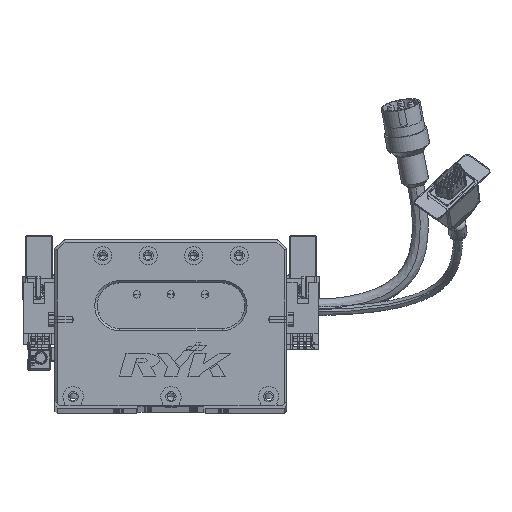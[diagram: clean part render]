
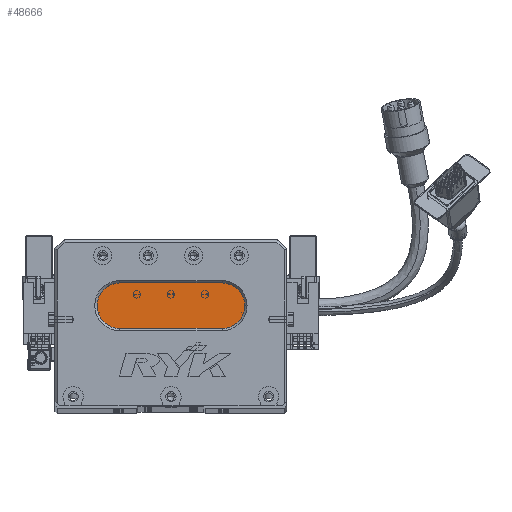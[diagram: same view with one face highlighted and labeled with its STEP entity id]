
A CAD part, top view. The second image highlights one B-rep face of the part: STEP entity #48666.
In plain terms, the highlighted planar face has unit normal (0, 0, 1) as drawn and (0, 0, -1) by its records, which use the part's own axes.
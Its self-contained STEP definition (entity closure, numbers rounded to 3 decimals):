
#123 = VERTEX_POINT ( 'NONE', #62744 ) ;
#1607 = ORIENTED_EDGE ( 'NONE', *, *, #1660, .T. ) ;
#1660 = EDGE_CURVE ( 'NONE', #72665, #33473, #56022, .T. ) ;
#3693 = VECTOR ( 'NONE', #16670, 1000. ) ;
#4206 = DIRECTION ( 'NONE',  ( -1., 0., 0. ) ) ;
#6441 = AXIS2_PLACEMENT_3D ( 'NONE', #66910, #44049, #10062 ) ;
#7343 = CIRCLE ( 'NONE', #59135, 10. ) ;
#8762 = CARTESIAN_POINT ( 'NONE',  ( 28.5, 34., 13. ) ) ;
#9513 = ORIENTED_EDGE ( 'NONE', *, *, #45822, .T. ) ;
#9635 = DIRECTION ( 'NONE',  ( 0., 0., -1. ) ) ;
#9801 = EDGE_CURVE ( 'NONE', #33473, #123, #44072, .T. ) ;
#10062 = DIRECTION ( 'NONE',  ( -1., 0., 0. ) ) ;
#13968 = ORIENTED_EDGE ( 'NONE', *, *, #73254, .T. ) ;
#16670 = DIRECTION ( 'NONE',  ( 1., 0., 0. ) ) ;
#16781 = EDGE_LOOP ( 'NONE', ( #9513, #13968, #1607, #62998, #61751 ) ) ;
#18524 = DIRECTION ( 'NONE',  ( -1., 0., 0. ) ) ;
#19228 = EDGE_CURVE ( 'NONE', #123, #59202, #58679, .T. ) ;
#26266 = DIRECTION ( 'NONE',  ( -1., 0., 0. ) ) ;
#27056 = CARTESIAN_POINT ( 'NONE',  ( 18.5, 44., 13. ) ) ;
#29620 = CARTESIAN_POINT ( 'NONE',  ( 28.5, 44., 13. ) ) ;
#30456 = LINE ( 'NONE', #60529, #54438 ) ;
#32101 = CARTESIAN_POINT ( 'NONE',  ( 73.5, 54., 13. ) ) ;
#33473 = VERTEX_POINT ( 'NONE', #27056 ) ;
#33831 = AXIS2_PLACEMENT_3D ( 'NONE', #29620, #41106, #18524 ) ;
#37784 = CARTESIAN_POINT ( 'NONE',  ( 73.5, 44., 13. ) ) ;
#38979 = FACE_OUTER_BOUND ( 'NONE', #16781, .T. ) ;
#41106 = DIRECTION ( 'NONE',  ( 0., 0., -1. ) ) ;
#44049 = DIRECTION ( 'NONE',  ( 0., 0., -1. ) ) ;
#44072 = CIRCLE ( 'NONE', #72498, 10. ) ;
#45822 = EDGE_CURVE ( 'NONE', #59202, #73362, #7343, .T. ) ;
#48666 = ADVANCED_FACE ( 'NONE', ( #38979 ), #55963, .T. ) ;
#48921 = DIRECTION ( 'NONE',  ( 0., 0., -1. ) ) ;
#54438 = VECTOR ( 'NONE', #66272, 1000. ) ;
#55963 = PLANE ( 'NONE',  #6441 ) ;
#56022 = CIRCLE ( 'NONE', #33831, 10. ) ;
#56615 = CARTESIAN_POINT ( 'NONE',  ( 73.5, 54., 13. ) ) ;
#58679 = LINE ( 'NONE', #56615, #3693 ) ;
#59135 = AXIS2_PLACEMENT_3D ( 'NONE', #37784, #48921, #26266 ) ;
#59202 = VERTEX_POINT ( 'NONE', #32101 ) ;
#60529 = CARTESIAN_POINT ( 'NONE',  ( 73.5, 34., 13. ) ) ;
#60987 = CARTESIAN_POINT ( 'NONE',  ( 28.5, 44., 13. ) ) ;
#61751 = ORIENTED_EDGE ( 'NONE', *, *, #19228, .T. ) ;
#62264 = CARTESIAN_POINT ( 'NONE',  ( 73.5, 34., 13. ) ) ;
#62744 = CARTESIAN_POINT ( 'NONE',  ( 28.5, 54., 13. ) ) ;
#62998 = ORIENTED_EDGE ( 'NONE', *, *, #9801, .T. ) ;
#66272 = DIRECTION ( 'NONE',  ( -1., 0., 0. ) ) ;
#66910 = CARTESIAN_POINT ( 'NONE',  ( 73.5, 44., 13. ) ) ;
#72498 = AXIS2_PLACEMENT_3D ( 'NONE', #60987, #9635, #4206 ) ;
#72665 = VERTEX_POINT ( 'NONE', #8762 ) ;
#73254 = EDGE_CURVE ( 'NONE', #73362, #72665, #30456, .T. ) ;
#73362 = VERTEX_POINT ( 'NONE', #62264 ) ;
